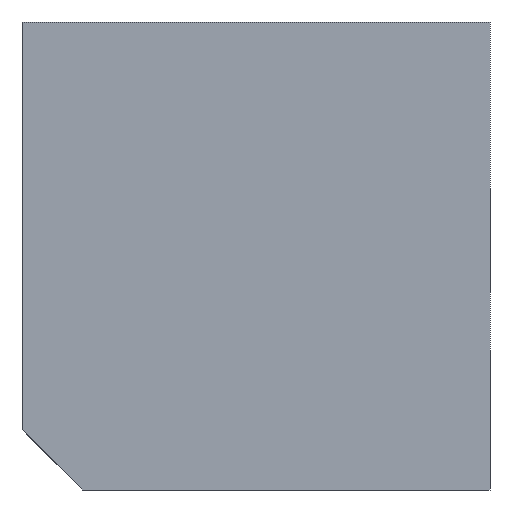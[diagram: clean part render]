
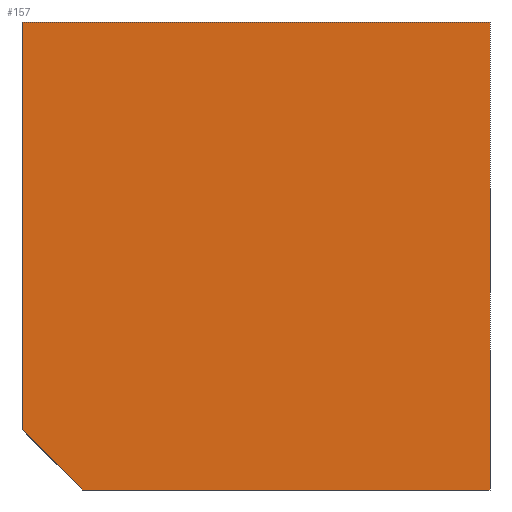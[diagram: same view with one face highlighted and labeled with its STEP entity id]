
A CAD part, front view. The second image highlights one B-rep face of the part: STEP entity #157.
In plain terms, the highlighted planar face has unit normal (0, -1, 0).
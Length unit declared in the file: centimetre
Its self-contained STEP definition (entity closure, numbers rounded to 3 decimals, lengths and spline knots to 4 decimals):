
#7 = EDGE_CURVE ( 'NONE', #1186, #235, #925, .T. ) ;
#63 = CARTESIAN_POINT ( 'NONE',  ( 0., 0., 128.8751 ) ) ;
#107 = CARTESIAN_POINT ( 'NONE',  ( 0., 0., 1000. ) ) ;
#119 = DIRECTION ( 'NONE',  ( 0., 0., -1. ) ) ;
#157 = ADVANCED_FACE ( 'NONE', ( #458 ), #347, .F. ) ;
#235 = VERTEX_POINT ( 'NONE', #787 ) ;
#254 = LINE ( 'NONE', #769, #845 ) ;
#286 = DIRECTION ( 'NONE',  ( 1., 0., 0. ) ) ;
#338 = AXIS2_PLACEMENT_3D ( 'NONE', #643, #1057, #873 ) ;
#347 = PLANE ( 'NONE',  #338 ) ;
#352 = ORIENTED_EDGE ( 'NONE', *, *, #7, .F. ) ;
#357 = EDGE_CURVE ( 'NONE', #535, #394, #1009, .T. ) ;
#378 = DIRECTION ( 'NONE',  ( 0., 0., -1. ) ) ;
#391 = ORIENTED_EDGE ( 'NONE', *, *, #964, .F. ) ;
#394 = VERTEX_POINT ( 'NONE', #63 ) ;
#434 = CARTESIAN_POINT ( 'NONE',  ( 1000., 0., 1000. ) ) ;
#458 = FACE_OUTER_BOUND ( 'NONE', #950, .T. ) ;
#535 = VERTEX_POINT ( 'NONE', #107 ) ;
#607 = LINE ( 'NONE', #1310, #632 ) ;
#632 = VECTOR ( 'NONE', #903, 100. ) ;
#637 = CARTESIAN_POINT ( 'NONE',  ( 128.8751, 0., 0. ) ) ;
#643 = CARTESIAN_POINT ( 'NONE',  ( 0., 0., 1000. ) ) ;
#708 = VECTOR ( 'NONE', #378, 100. ) ;
#714 = CARTESIAN_POINT ( 'NONE',  ( 1000., 0., 1000. ) ) ;
#722 = VECTOR ( 'NONE', #1220, 100. ) ;
#769 = CARTESIAN_POINT ( 'NONE',  ( 0., 0., 1000. ) ) ;
#779 = CARTESIAN_POINT ( 'NONE',  ( 0., 0., 1000. ) ) ;
#787 = CARTESIAN_POINT ( 'NONE',  ( 1000., 0., 0. ) ) ;
#830 = CARTESIAN_POINT ( 'NONE',  ( 0., 0., 0. ) ) ;
#845 = VECTOR ( 'NONE', #286, 100. ) ;
#873 = DIRECTION ( 'NONE',  ( 0., 0., 1. ) ) ;
#891 = VERTEX_POINT ( 'NONE', #637 ) ;
#903 = DIRECTION ( 'NONE',  ( 0.707, 0., -0.707 ) ) ;
#925 = LINE ( 'NONE', #434, #1047 ) ;
#950 = EDGE_LOOP ( 'NONE', ( #1264, #1289, #1181, #352, #391 ) ) ;
#964 = EDGE_CURVE ( 'NONE', #535, #1186, #254, .T. ) ;
#1009 = LINE ( 'NONE', #779, #708 ) ;
#1020 = LINE ( 'NONE', #830, #722 ) ;
#1047 = VECTOR ( 'NONE', #119, 100. ) ;
#1057 = DIRECTION ( 'NONE',  ( 0., 1., 0. ) ) ;
#1071 = EDGE_CURVE ( 'NONE', #891, #235, #1020, .T. ) ;
#1123 = EDGE_CURVE ( 'NONE', #394, #891, #607, .T. ) ;
#1181 = ORIENTED_EDGE ( 'NONE', *, *, #1071, .T. ) ;
#1186 = VERTEX_POINT ( 'NONE', #714 ) ;
#1220 = DIRECTION ( 'NONE',  ( 1., 0., 0. ) ) ;
#1264 = ORIENTED_EDGE ( 'NONE', *, *, #357, .T. ) ;
#1289 = ORIENTED_EDGE ( 'NONE', *, *, #1123, .T. ) ;
#1310 = CARTESIAN_POINT ( 'NONE',  ( 0., 0., 128.8751 ) ) ;
